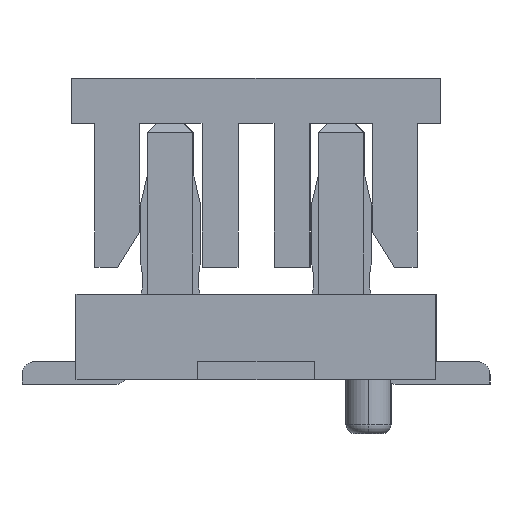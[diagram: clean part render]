
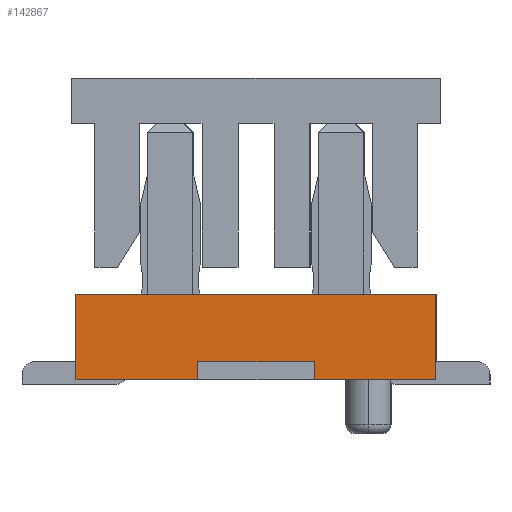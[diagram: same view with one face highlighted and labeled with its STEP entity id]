
A CAD part, left-side view. The second image highlights one B-rep face of the part: STEP entity #142867.
In plain terms, the highlighted planar face has unit normal (-1, 0, 0).
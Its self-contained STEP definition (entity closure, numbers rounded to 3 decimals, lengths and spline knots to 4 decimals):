
#776 = LINE ( 'NONE', #118570, #146557 ) ;
#3256 = VECTOR ( 'NONE', #27443, 1000. ) ;
#3290 = DIRECTION ( 'NONE',  ( 0., 1., 0. ) ) ;
#4302 = DIRECTION ( 'NONE',  ( 0., 0., 1. ) ) ;
#4594 = ORIENTED_EDGE ( 'NONE', *, *, #7798, .T. ) ;
#7028 = DIRECTION ( 'NONE',  ( 0., -1., 0. ) ) ;
#7492 = VERTEX_POINT ( 'NONE', #115612 ) ;
#7798 = EDGE_CURVE ( 'NONE', #147343, #108274, #121246, .T. ) ;
#8123 = EDGE_CURVE ( 'NONE', #31421, #109181, #75812, .T. ) ;
#9454 = VECTOR ( 'NONE', #4302, 1000. ) ;
#12356 = FACE_OUTER_BOUND ( 'NONE', #143172, .T. ) ;
#18246 = ORIENTED_EDGE ( 'NONE', *, *, #61121, .F. ) ;
#18339 = ORIENTED_EDGE ( 'NONE', *, *, #8123, .F. ) ;
#20040 = ORIENTED_EDGE ( 'NONE', *, *, #43208, .F. ) ;
#22587 = ORIENTED_EDGE ( 'NONE', *, *, #63046, .F. ) ;
#23697 = CARTESIAN_POINT ( 'NONE',  ( -4.15, -0.65, 0.2 ) ) ;
#24999 = CARTESIAN_POINT ( 'NONE',  ( -4.15, -0.65, 0.1 ) ) ;
#27443 = DIRECTION ( 'NONE',  ( 0., 1., 0. ) ) ;
#28274 = LINE ( 'NONE', #43584, #3256 ) ;
#31421 = VERTEX_POINT ( 'NONE', #156756 ) ;
#33388 = EDGE_CURVE ( 'NONE', #50283, #108274, #150193, .T. ) ;
#34889 = CARTESIAN_POINT ( 'NONE',  ( -4.15, -2., 0. ) ) ;
#36572 = CARTESIAN_POINT ( 'NONE',  ( -4.15, -2., 0.475 ) ) ;
#43208 = EDGE_CURVE ( 'NONE', #7492, #111463, #106040, .T. ) ;
#43584 = CARTESIAN_POINT ( 'NONE',  ( -4.15, -1.325, 0. ) ) ;
#44587 = CARTESIAN_POINT ( 'NONE',  ( -4.15, 2., 0.95 ) ) ;
#47226 = CARTESIAN_POINT ( 'NONE',  ( -4.15, 0.65, 0.2 ) ) ;
#48484 = EDGE_CURVE ( 'NONE', #136602, #50283, #153082, .T. ) ;
#50283 = VERTEX_POINT ( 'NONE', #23697 ) ;
#52230 = CARTESIAN_POINT ( 'NONE',  ( -4.15, 2., 0.475 ) ) ;
#53185 = VECTOR ( 'NONE', #63830, 1000. ) ;
#55975 = VECTOR ( 'NONE', #122903, 1000. ) ;
#59843 = VECTOR ( 'NONE', #7028, 1000. ) ;
#59860 = LINE ( 'NONE', #163247, #59843 ) ;
#60637 = EDGE_CURVE ( 'NONE', #109181, #136602, #28274, .T. ) ;
#61121 = EDGE_CURVE ( 'NONE', #147343, #7492, #776, .T. ) ;
#62042 = VECTOR ( 'NONE', #139431, 1000. ) ;
#63046 = EDGE_CURVE ( 'NONE', #111463, #31421, #59860, .T. ) ;
#63830 = DIRECTION ( 'NONE',  ( 0., 0., -1. ) ) ;
#64185 = DIRECTION ( 'NONE',  ( 0., 0., 1. ) ) ;
#67073 = ORIENTED_EDGE ( 'NONE', *, *, #33388, .F. ) ;
#70962 = CARTESIAN_POINT ( 'NONE',  ( -4.15, -0.65, 0. ) ) ;
#75812 = LINE ( 'NONE', #36572, #53185 ) ;
#76267 = ORIENTED_EDGE ( 'NONE', *, *, #60637, .F. ) ;
#89165 = CARTESIAN_POINT ( 'NONE',  ( -4.15, 0., 0. ) ) ;
#97767 = ORIENTED_EDGE ( 'NONE', *, *, #48484, .F. ) ;
#101331 = AXIS2_PLACEMENT_3D ( 'NONE', #89165, #154933, #142956 ) ;
#106040 = LINE ( 'NONE', #52230, #112833 ) ;
#108274 = VERTEX_POINT ( 'NONE', #47226 ) ;
#109181 = VERTEX_POINT ( 'NONE', #34889 ) ;
#110082 = CARTESIAN_POINT ( 'NONE',  ( -4.15, 0., 0.2 ) ) ;
#111463 = VERTEX_POINT ( 'NONE', #44587 ) ;
#112833 = VECTOR ( 'NONE', #64185, 1000. ) ;
#115612 = CARTESIAN_POINT ( 'NONE',  ( -4.15, 2., 0. ) ) ;
#118570 = CARTESIAN_POINT ( 'NONE',  ( -4.15, 1.325, 0. ) ) ;
#121246 = LINE ( 'NONE', #132356, #9454 ) ;
#121392 = CARTESIAN_POINT ( 'NONE',  ( -4.15, 0.65, 0. ) ) ;
#122903 = DIRECTION ( 'NONE',  ( 0., 1., 0. ) ) ;
#130154 = PLANE ( 'NONE',  #101331 ) ;
#132356 = CARTESIAN_POINT ( 'NONE',  ( -4.15, 0.65, 0.1 ) ) ;
#136602 = VERTEX_POINT ( 'NONE', #70962 ) ;
#139431 = DIRECTION ( 'NONE',  ( 0., 0., 1. ) ) ;
#142867 = ADVANCED_FACE ( 'NONE', ( #12356 ), #130154, .F. ) ;
#142956 = DIRECTION ( 'NONE',  ( 0., 1., 0. ) ) ;
#143172 = EDGE_LOOP ( 'NONE', ( #4594, #67073, #97767, #76267, #18339, #22587, #20040, #18246 ) ) ;
#146557 = VECTOR ( 'NONE', #3290, 1000. ) ;
#147343 = VERTEX_POINT ( 'NONE', #121392 ) ;
#150193 = LINE ( 'NONE', #110082, #55975 ) ;
#153082 = LINE ( 'NONE', #24999, #62042 ) ;
#154933 = DIRECTION ( 'NONE',  ( 1., 0., 0. ) ) ;
#156756 = CARTESIAN_POINT ( 'NONE',  ( -4.15, -2., 0.95 ) ) ;
#163247 = CARTESIAN_POINT ( 'NONE',  ( -4.15, 0., 0.95 ) ) ;
